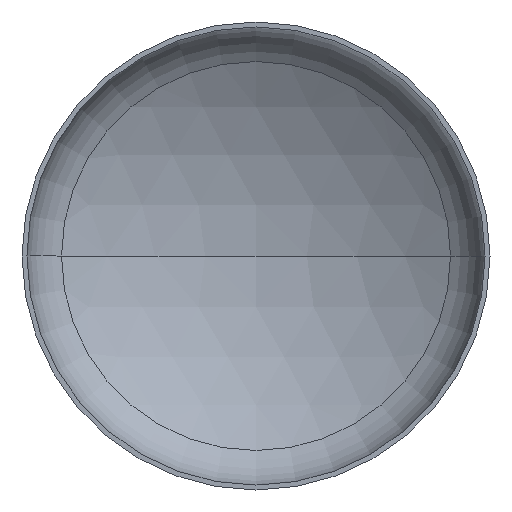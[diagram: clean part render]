
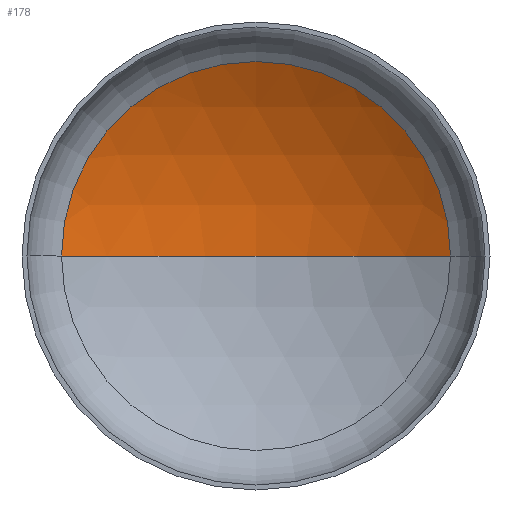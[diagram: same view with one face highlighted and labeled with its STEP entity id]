
A CAD part, front view. The second image highlights one B-rep face of the part: STEP entity #178.
In plain terms, the highlighted spherical face has radius 6400 mm.
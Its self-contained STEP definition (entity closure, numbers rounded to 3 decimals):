
#20 = ORIENTED_EDGE ( 'NONE', *, *, #206, .F. ) ;
#42 = CARTESIAN_POINT ( 'NONE',  ( 0., 1150.972, 0. ) ) ;
#44 = DIRECTION ( 'NONE',  ( 1., 0., 0. ) ) ;
#92 = AXIS2_PLACEMENT_3D ( 'NONE', #404, #274, #44 ) ;
#94 = DIRECTION ( 'NONE',  ( 1., 0., 0. ) ) ;
#97 = AXIS2_PLACEMENT_3D ( 'NONE', #336, #187, #356 ) ;
#100 = AXIS2_PLACEMENT_3D ( 'NONE', #42, #295, #94 ) ;
#109 = DIRECTION ( 'NONE',  ( -1., 0., 0. ) ) ;
#123 = EDGE_LOOP ( 'NONE', ( #20, #149, #141 ) ) ;
#128 = AXIS2_PLACEMENT_3D ( 'NONE', #160, #252, #109 ) ;
#137 = VERTEX_POINT ( 'NONE', #222 ) ;
#141 = ORIENTED_EDGE ( 'NONE', *, *, #201, .T. ) ;
#149 = ORIENTED_EDGE ( 'NONE', *, *, #204, .T. ) ;
#157 = VERTEX_POINT ( 'NONE', #241 ) ;
#159 = CARTESIAN_POINT ( 'NONE',  ( 3325.029, 1150.972, 0. ) ) ;
#160 = CARTESIAN_POINT ( 'NONE',  ( 0., -4317.5, 0. ) ) ;
#163 = CIRCLE ( 'NONE', #97, 6400. ) ;
#178 = ADVANCED_FACE ( 'NONE', ( #374 ), #312, .F. ) ;
#187 = DIRECTION ( 'NONE',  ( 0., 0., -1. ) ) ;
#201 = EDGE_CURVE ( 'NONE', #286, #137, #250, .T. ) ;
#204 = EDGE_CURVE ( 'NONE', #157, #286, #163, .T. ) ;
#206 = EDGE_CURVE ( 'NONE', #157, #137, #354, .T. ) ;
#222 = CARTESIAN_POINT ( 'NONE',  ( -3325.029, 1150.972, 0. ) ) ;
#241 = CARTESIAN_POINT ( 'NONE',  ( 0., 2082.5, 0. ) ) ;
#250 = CIRCLE ( 'NONE', #100, 3325.029 ) ;
#252 = DIRECTION ( 'NONE',  ( 0., 0., -1. ) ) ;
#274 = DIRECTION ( 'NONE',  ( 0., 0., 1. ) ) ;
#286 = VERTEX_POINT ( 'NONE', #159 ) ;
#295 = DIRECTION ( 'NONE',  ( 0., -1., 0. ) ) ;
#312 = SPHERICAL_SURFACE ( 'NONE', #128, 6400. ) ;
#336 = CARTESIAN_POINT ( 'NONE',  ( 0., -4317.5, 0. ) ) ;
#354 = CIRCLE ( 'NONE', #92, 6400. ) ;
#356 = DIRECTION ( 'NONE',  ( -1., 0., 0. ) ) ;
#374 = FACE_OUTER_BOUND ( 'NONE', #123, .T. ) ;
#404 = CARTESIAN_POINT ( 'NONE',  ( 0., -4317.5, 0. ) ) ;
